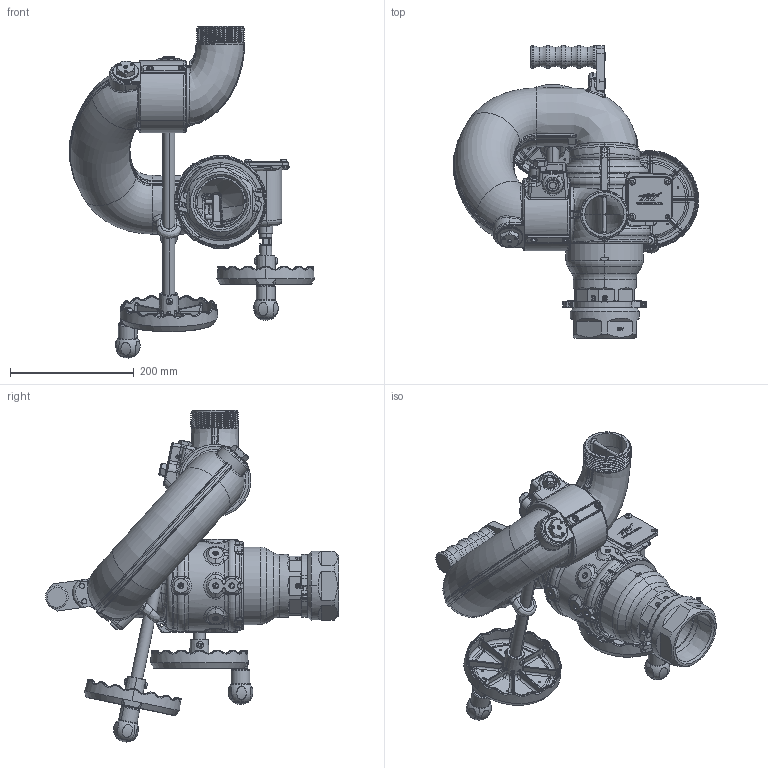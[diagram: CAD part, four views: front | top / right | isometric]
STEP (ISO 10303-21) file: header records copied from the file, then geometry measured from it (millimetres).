
FILE_DESCRIPTION (( 'STEP AP203' ), '1' );
FILE_NAME ('XFIH-D61A_Horizontal.STEP', '2014-10-20T20:22:30', ( '' ), ( '' ), 'SwSTEP 2.0', 'SolidWorks 2014', '' );
FILE_SCHEMA (( 'CONFIG_CONTROL_DESIGN' ));
Length unit declared in the file: inch
Products named in the file (1): XFIH-D61A_Horizontal
Bounding box: 397.2 x 474.44 x 537.52 mm (x, y, z)
Surface area: 729731.1 mm2 (no closed solid volume)
Topology: 0 solids, 130 shells, 2566 faces, 9232 edges, 6582 vertices
Faces by surface type: bspline 796, plane 614, cylinder 581, torus 320, cone 207, sphere 48
Entity records: 163802 total; most frequent: CARTESIAN_POINT 93747, ORIENTED_EDGE 14498, DIRECTION 12674, EDGE_CURVE 9196, VERTEX_POINT 6578, AXIS2_PLACEMENT_3D 4676, VECTOR 3322, LINE 3322
